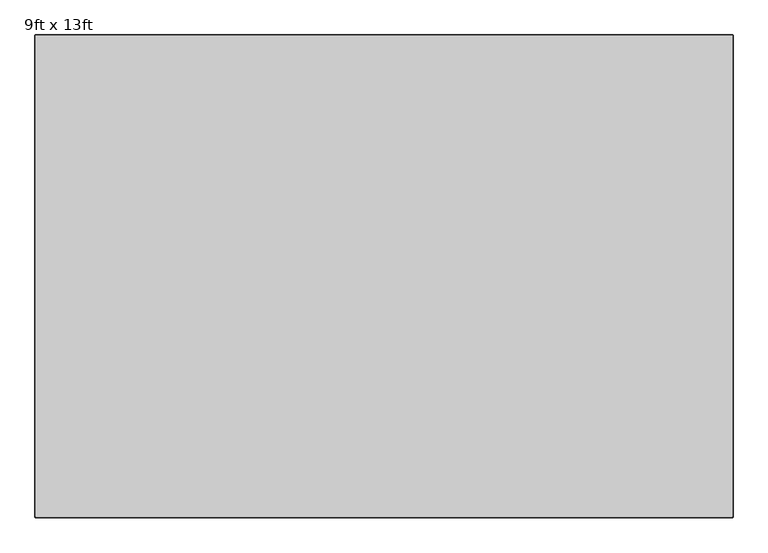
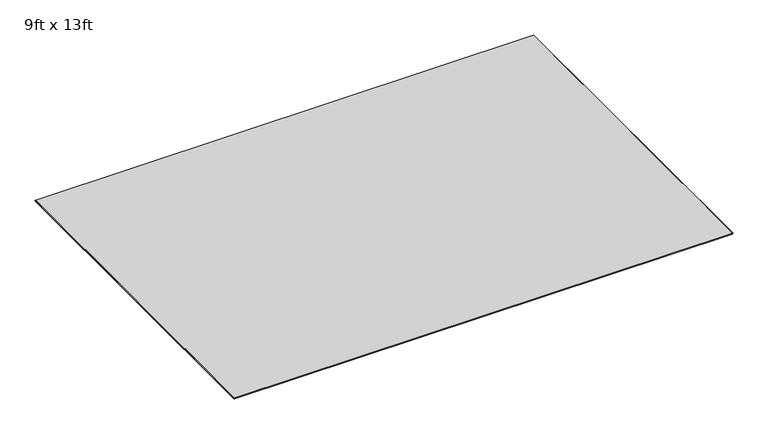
"""IFC4 building model written with IfcOpenShell, lengths in millimetres: furniture geometry, Coalesse_AM_Accessory_Rug_Nanimarquina_Basket : 9ft x 13ft."""

from ifc_helpers import new_model, si_unit, frame, origin, place, context, project, spatial, polyline, circle_curve, source, transform, mapped, element, save
from ifc_brep_helpers import plane_surface, cylinder_surface, revolved_surface, advanced_brep


def furniture_9ft_x_13ft_89a116fc(model_context):
    return source(origin(), model_context, "Body", "AdvancedBrep", [
        advanced_brep(
        [(-658.8809829, 798.9249977, 6.9850002), (-661.4265124, 796.3794681, 6.9850002), (-661.4265124, -1936.6550023, 6.9850002), (-658.8865124, -1939.1950023, 6.9850002), (3293.3533713, -1939.1950023, 6.9850002), (3295.8933713, -1936.6550023, 6.9850002), (3295.8933713, 796.3849977, 6.9850002), (3293.3533713, 798.9249977, 6.9850002), (-663.9665124, 796.3794681, 0.0), (-658.8809829, 801.4649977, 0.0), (3293.3533713, 801.4649977, 0.0), (3298.4333713, 796.3849977, 0.0), (3298.4333713, -1936.6550023, 0.0), (3293.3533713, -1941.7350023, 0.0), (-658.8865124, -1941.7350023, 0.0), (-663.9665124, -1936.6550023, 0.0), (-663.9665124, 796.3794681, 4.4450002), (-658.8809829, 801.4649977, 4.4450002), (-663.9665124, -1936.6550023, 4.4450002), (-658.8865124, -1941.7350023, 4.4450002), (3293.3533713, -1941.7350023, 4.4450002), (3298.4333713, -1936.6550023, 4.4450002), (3298.4333713, 796.3849977, 4.4450002), (3293.3533713, 801.4649977, 4.4450002)],
        [
            (0, 1, circle_curve(frame((-658.8809829, 796.3794681, 6.9850002), z_axis=(0.0, 0.0, 1.0), x_axis=(0.0, 1.0, 0.0)), 2.5455296)),
            (1, 2),
            (2, 3, circle_curve(frame((-658.8865124, -1936.6550023, 6.9850002), z_axis=(0.0, 0.0, 1.0), x_axis=(-1.0, 0.0, 0.0)), 2.54)),
            (3, 4),
            (4, 5, circle_curve(frame((3293.3533713, -1936.6550023, 6.9850002), z_axis=(0.0, 0.0, 1.0), x_axis=(0.0, -1.0, 0.0)), 2.54)),
            (5, 6),
            (6, 7, circle_curve(frame((3293.3533713, 796.3849977, 6.9850002), z_axis=(0.0, 0.0, 1.0), x_axis=(1.0, 0.0, 0.0)), 2.54)),
            (7, 0),
            (8, 9, circle_curve(frame((-658.8809829, 796.3794681, 0.0), z_axis=(0.0, 0.0, -1.0), x_axis=(0.0, 1.0, 0.0)), 5.0855296)),
            (9, 10),
            (10, 11, circle_curve(frame((3293.3533713, 796.3849977, 0.0), z_axis=(0.0, 0.0, -1.0), x_axis=(1.0, 0.0, 0.0)), 5.08)),
            (11, 12),
            (12, 13, circle_curve(frame((3293.3533713, -1936.6550023, 0.0), z_axis=(0.0, 0.0, -1.0), x_axis=(0.0, -1.0, 0.0)), 5.08)),
            (13, 14),
            (14, 15, circle_curve(frame((-658.8865124, -1936.6550023, 0.0), z_axis=(0.0, 0.0, -1.0), x_axis=(-1.0, 0.0, 0.0)), 5.08)),
            (15, 8),
            (16, 17, circle_curve(frame((-658.8809829, 796.3794681, 4.4450002), z_axis=(0.0, 0.0, -1.0), x_axis=(0.0, 1.0, 0.0)), 5.0855296)),
            (17, 9),
            (8, 16),
            (16, 1),
            (0, 17),
            (15, 18),
            (18, 16),
            (18, 2),
            (14, 19),
            (19, 18, circle_curve(frame((-658.8865124, -1936.6550023, 4.4450002), z_axis=(0.0, 0.0, -1.0), x_axis=(-1.0, 0.0, 0.0)), 5.08)),
            (19, 3),
            (13, 20),
            (20, 19),
            (20, 4),
            (12, 21),
            (21, 20, circle_curve(frame((3293.3533713, -1936.6550023, 4.4450002), z_axis=(0.0, 0.0, -1.0), x_axis=(0.0, -1.0, 0.0)), 5.08)),
            (21, 5),
            (11, 22),
            (22, 21),
            (22, 6),
            (10, 23),
            (23, 22, circle_curve(frame((3293.3533713, 796.3849977, 4.4450002), z_axis=(0.0, 0.0, -1.0), x_axis=(1.0, 0.0, 0.0)), 5.08)),
            (23, 7),
            (17, 23),
        ],
        [
            plane_surface(frame((-658.8809829, 798.9249977, 6.9850002), z_axis=(0.0, 0.0, 1.0), x_axis=(-1.0, 0.0, 0.0))),
            plane_surface(frame((-658.8809829, 798.9249977, 0.0), z_axis=(0.0, 0.0, -1.0), x_axis=(1.0, 0.0, 0.0))),
            cylinder_surface(frame((-658.8809829, 796.3794681, 0.0), z_axis=(0.0, 0.0, 1.0), x_axis=(0.0, 1.0, 0.0)), 5.0855296),
            revolved_surface(polyline([(-658.8809829, 801.4649977, 4.4450002), (-658.8809829, 798.9249977, 6.9850002)]), (-658.8809829, 796.3794681, 0.0), (0.0, 0.0, 1.0)),
            plane_surface(frame((-663.9665124, 796.3794681, 0.0), z_axis=(-1.0, 0.0, 0.0), x_axis=(0.0, -1.0, 0.0))),
            plane_surface(frame((-663.9665124, 796.3794681, 4.4450002), z_axis=(-0.7071067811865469, 0.0, 0.7071067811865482), x_axis=(0.0, -1.0, 0.0))),
            cylinder_surface(frame((-658.8865124, -1936.6550023, 0.0), z_axis=(0.0, 0.0, 1.0), x_axis=(-1.0, 0.0, 0.0)), 5.08),
            revolved_surface(polyline([(-663.9665124, -1936.6550023, 4.4450002), (-661.4265124, -1936.6550023, 6.9850002)]), (-658.8865124, -1936.6550023, 0.0), (0.0, 0.0, 1.0)),
            plane_surface(frame((-658.8865124, -1941.7350023, 0.0), z_axis=(0.0, -1.0, 0.0), x_axis=(1.0, 0.0, 0.0))),
            plane_surface(frame((-658.8865124, -1941.7350023, 4.4450002), z_axis=(0.0, -0.7071067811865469, 0.7071067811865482), x_axis=(1.0, 0.0, 0.0))),
            cylinder_surface(frame((3293.3533713, -1936.6550023, 0.0), z_axis=(0.0, 0.0, 1.0), x_axis=(0.0, -1.0, 0.0)), 5.08),
            revolved_surface(polyline([(3293.3533713, -1941.7350023, 4.4450002), (3293.3533713, -1939.1950023, 6.9850002)]), (3293.3533713, -1936.6550023, 0.0), (0.0, 0.0, 1.0)),
            plane_surface(frame((3298.4333713, -1936.6550023, 0.0), z_axis=(1.0, 0.0, 0.0), x_axis=(0.0, 1.0, 0.0))),
            plane_surface(frame((3298.4333713, -1936.6550023, 4.4450002), z_axis=(0.7071067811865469, 0.0, 0.7071067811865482), x_axis=(0.0, 1.0, 0.0))),
            cylinder_surface(frame((3293.3533713, 796.3849977, 0.0), z_axis=(0.0, 0.0, 1.0), x_axis=(1.0, 0.0, 0.0)), 5.08),
            revolved_surface(polyline([(3298.4333713, 796.3849977, 4.4450002), (3295.8933713, 796.3849977, 6.9850002)]), (3293.3533713, 796.3849977, 0.0), (0.0, 0.0, 1.0)),
            plane_surface(frame((3293.3533713, 801.4649977, 0.0), z_axis=(0.0, 1.0, 0.0), x_axis=(-1.0, 0.0, 0.0))),
            plane_surface(frame((3293.3533713, 801.4649977, 4.4450002), z_axis=(0.0, 0.7071067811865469, 0.7071067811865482), x_axis=(-1.0, 0.0, 0.0))),
        ],
        [
            (0, [[1, 2, 3, 4, 5, 6, 7, 8]]),
            (1, [[9, 10, 11, 12, 13, 14, 15, 16]]),
            (2, [[17, 18, -9, 19]]),
            (3, [[-17, 20, -1, 21]]),
            (4, [[-19, -16, 22, 23]]),
            (5, [[-20, -23, 24, -2]]),
            (6, [[-22, -15, 25, 26]]),
            (7, [[-24, -26, 27, -3]]),
            (8, [[-25, -14, 28, 29]]),
            (9, [[-27, -29, 30, -4]]),
            (10, [[-28, -13, 31, 32]]),
            (11, [[-30, -32, 33, -5]]),
            (12, [[-31, -12, 34, 35]]),
            (13, [[-33, -35, 36, -6]]),
            (14, [[-34, -11, 37, 38]]),
            (15, [[-36, -38, 39, -7]]),
            (16, [[-18, 40, -37, -10]]),
            (17, [[-21, -8, -39, -40]]),
        ],
    ),
    ])


if __name__ == "__main__":
    model = new_model("IFC4")
    model_context = context("Model", 3, world=origin())
    ifc_project = project(units=[si_unit("LENGTHUNIT", "METRE", prefix="MILLI")], contexts=[model_context])
    site = spatial("IfcSite", under=ifc_project)
    building = spatial("IfcBuilding", under=site)
    placement = place(None, origin())
    furniture_9ft_x_13ft_shape = furniture_9ft_x_13ft_89a116fc(model_context)
    element("IfcFurniture", 1, ObjectType="Coalesse_AM_Accessory_Rug_Nanimarquina_Basket : 9ft x 13ft", at=placement, inside=building, context=model_context, shape_type="MappedRepresentation", body=[
        mapped(furniture_9ft_x_13ft_shape, transform((0.0, 0.0, 0.0), x_axis=(1.0, 0.0, 0.0), y_axis=(0.0, 1.0, 0.0), z_axis=(0.0, 0.0, 1.0))),
    ])
    save(model, "model.ifc")
